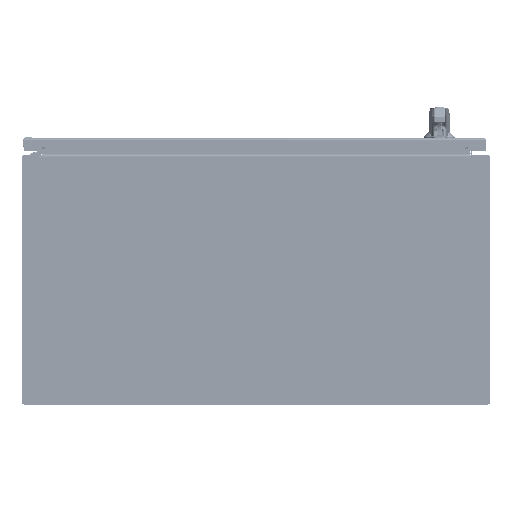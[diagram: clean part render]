
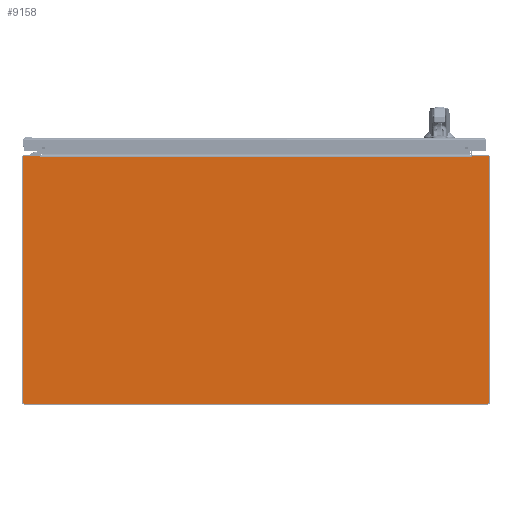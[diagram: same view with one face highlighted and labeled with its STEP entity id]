
A CAD part, front view. The second image highlights one B-rep face of the part: STEP entity #9158.
In plain terms, the highlighted planar face has unit normal (0, -1, 0).
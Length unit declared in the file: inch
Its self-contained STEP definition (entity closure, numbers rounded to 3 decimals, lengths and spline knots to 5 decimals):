
#7941=CARTESIAN_POINT('',(-14.857,0.,7.857));
#7942=DIRECTION('',(0.,-1.,0.));
#7943=DIRECTION('',(0.,0.,1.));
#7944=AXIS2_PLACEMENT_3D('',#7941,#7942,#7943);
#7949=DIRECTION('',(-1.,0.,0.));
#7950=VECTOR('',#7949,1.03388);
#7951=CARTESIAN_POINT('',(-13.82312,0.,7.937));
#7952=LINE('',#7951,#7950);
#7956=DIRECTION('',(0.174,0.,-0.985));
#7957=VECTOR('',#7956,0.05483);
#7958=CARTESIAN_POINT('',(-13.82312,0.,7.937));
#7959=LINE('',#7958,#7957);
#7963=DIRECTION('',(-1.,0.,0.));
#7964=VECTOR('',#7963,0.0156);
#7965=CARTESIAN_POINT('',(-13.798,0.,7.883));
#7966=LINE('',#7965,#7964);
#7970=DIRECTION('',(1.,0.,0.));
#7971=VECTOR('',#7970,0.0156);
#7972=CARTESIAN_POINT('',(13.798,0.,7.883));
#7973=LINE('',#7972,#7971);
#7977=DIRECTION('',(-0.174,0.,-0.985));
#7978=VECTOR('',#7977,0.05483);
#7979=CARTESIAN_POINT('',(13.82312,0.,7.937));
#7980=LINE('',#7979,#7978);
#7984=DIRECTION('',(-1.,0.,0.));
#7985=VECTOR('',#7984,1.03388);
#7986=CARTESIAN_POINT('',(14.857,0.,7.937));
#7987=LINE('',#7986,#7985);
#7991=CARTESIAN_POINT('',(14.857,0.,7.857));
#7992=DIRECTION('',(0.,-1.,0.));
#7993=DIRECTION('',(1.,0.,0.));
#7994=AXIS2_PLACEMENT_3D('',#7991,#7992,#7993);
#7999=DIRECTION('',(0.,0.,1.));
#8000=VECTOR('',#7999,15.714);
#8001=CARTESIAN_POINT('',(14.937,0.,-7.857));
#8002=LINE('',#8001,#8000);
#8006=CARTESIAN_POINT('',(14.857,0.,-7.857));
#8007=DIRECTION('',(0.,-1.,0.));
#8008=DIRECTION('',(0.,0.,-1.));
#8009=AXIS2_PLACEMENT_3D('',#8006,#8007,#8008);
#8014=DIRECTION('',(1.,0.,0.));
#8015=VECTOR('',#8014,29.714);
#8016=CARTESIAN_POINT('',(-14.857,0.,-7.937));
#8017=LINE('',#8016,#8015);
#8021=CARTESIAN_POINT('',(-14.857,0.,-7.857));
#8022=DIRECTION('',(0.,-1.,0.));
#8023=DIRECTION('',(-1.,0.,0.));
#8024=AXIS2_PLACEMENT_3D('',#8021,#8022,#8023);
#8029=DIRECTION('',(0.,0.,-1.));
#8030=VECTOR('',#8029,15.714);
#8031=CARTESIAN_POINT('',(-14.937,0.,7.857));
#8032=LINE('',#8031,#8030);
#8310=DIRECTION('',(1.,0.,0.));
#8311=VECTOR('',#8310,27.596);
#8312=CARTESIAN_POINT('',(-13.798,0.,7.883));
#8313=LINE('',#8312,#8311);
#8971=CARTESIAN_POINT('',(13.798,0.,7.883));
#8972=CARTESIAN_POINT('',(13.8136,0.,7.883));
#8973=VERTEX_POINT('',#8971);
#8974=VERTEX_POINT('',#8972);
#8975=CARTESIAN_POINT('',(13.82312,0.,7.937));
#8976=VERTEX_POINT('',#8975);
#8983=CARTESIAN_POINT('',(-13.798,0.,7.883));
#8984=CARTESIAN_POINT('',(-13.8136,0.,7.883));
#8985=VERTEX_POINT('',#8983);
#8986=VERTEX_POINT('',#8984);
#8987=CARTESIAN_POINT('',(-13.82312,0.,7.937));
#8988=VERTEX_POINT('',#8987);
#9047=CARTESIAN_POINT('',(-14.857,0.,7.937));
#9048=CARTESIAN_POINT('',(-14.937,0.,7.857));
#9049=VERTEX_POINT('',#9047);
#9050=VERTEX_POINT('',#9048);
#9055=CARTESIAN_POINT('',(-14.937,0.,-7.857));
#9056=CARTESIAN_POINT('',(-14.857,0.,-7.937));
#9057=VERTEX_POINT('',#9055);
#9058=VERTEX_POINT('',#9056);
#9063=CARTESIAN_POINT('',(14.857,0.,-7.937));
#9064=CARTESIAN_POINT('',(14.937,0.,-7.857));
#9065=VERTEX_POINT('',#9063);
#9066=VERTEX_POINT('',#9064);
#9071=CARTESIAN_POINT('',(14.937,0.,7.857));
#9072=CARTESIAN_POINT('',(14.857,0.,7.937));
#9073=VERTEX_POINT('',#9071);
#9074=VERTEX_POINT('',#9072);
#9123=CARTESIAN_POINT('',(0.,0.,0.));
#9124=DIRECTION('',(0.,-1.,0.));
#9125=DIRECTION('',(-1.,0.,0.));
#9126=AXIS2_PLACEMENT_3D('',#9123,#9124,#9125);
#9127=PLANE('',#9126);
#9129=ORIENTED_EDGE('',*,*,#9128,.F.);
#9131=ORIENTED_EDGE('',*,*,#9130,.F.);
#9133=ORIENTED_EDGE('',*,*,#9132,.T.);
#9135=ORIENTED_EDGE('',*,*,#9134,.F.);
#9137=ORIENTED_EDGE('',*,*,#9136,.T.);
#9139=ORIENTED_EDGE('',*,*,#9138,.T.);
#9141=ORIENTED_EDGE('',*,*,#9140,.F.);
#9143=ORIENTED_EDGE('',*,*,#9142,.F.);
#9145=ORIENTED_EDGE('',*,*,#9144,.F.);
#9147=ORIENTED_EDGE('',*,*,#9146,.F.);
#9149=ORIENTED_EDGE('',*,*,#9148,.F.);
#9151=ORIENTED_EDGE('',*,*,#9150,.F.);
#9153=ORIENTED_EDGE('',*,*,#9152,.F.);
#9155=ORIENTED_EDGE('',*,*,#9154,.F.);
#9156=EDGE_LOOP('',(#9129,#9131,#9133,#9135,#9137,#9139,#9141,#9143,#9145,#9147,
#9149,#9151,#9153,#9155));
#9157=FACE_OUTER_BOUND('',#9156,.F.);
#7945=CIRCLE('',#7944,0.08);
#7995=CIRCLE('',#7994,0.08);
#8010=CIRCLE('',#8009,0.08);
#8025=CIRCLE('',#8024,0.08);
#9128=EDGE_CURVE('',#9049,#9050,#7945,.T.);
#9130=EDGE_CURVE('',#8988,#9049,#7952,.T.);
#9132=EDGE_CURVE('',#8988,#8986,#7959,.T.);
#9134=EDGE_CURVE('',#8985,#8986,#7966,.T.);
#9136=EDGE_CURVE('',#8985,#8973,#8313,.T.);
#9138=EDGE_CURVE('',#8973,#8974,#7973,.T.);
#9140=EDGE_CURVE('',#8976,#8974,#7980,.T.);
#9142=EDGE_CURVE('',#9074,#8976,#7987,.T.);
#9144=EDGE_CURVE('',#9073,#9074,#7995,.T.);
#9146=EDGE_CURVE('',#9066,#9073,#8002,.T.);
#9148=EDGE_CURVE('',#9065,#9066,#8010,.T.);
#9150=EDGE_CURVE('',#9058,#9065,#8017,.T.);
#9152=EDGE_CURVE('',#9057,#9058,#8025,.T.);
#9154=EDGE_CURVE('',#9050,#9057,#8032,.T.);
#9158=ADVANCED_FACE('',(#9157),#9127,.T.);
